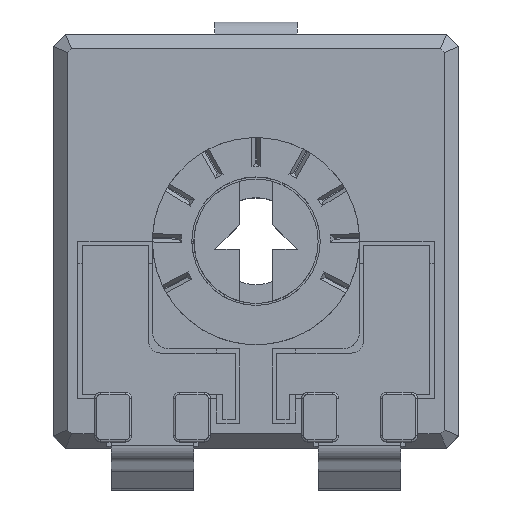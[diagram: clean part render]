
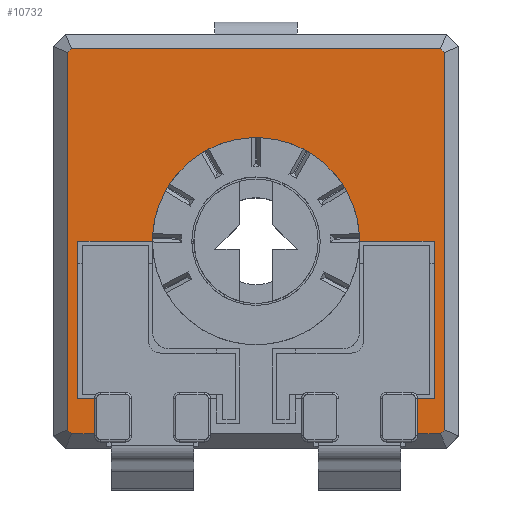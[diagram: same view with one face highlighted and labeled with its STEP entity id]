
A CAD part, top view. The second image highlights one B-rep face of the part: STEP entity #10732.
In plain terms, the highlighted planar face has unit normal (0, 0, 1).
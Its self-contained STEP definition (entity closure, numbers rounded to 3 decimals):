
#220=PLANE('',#11467);
#729=FACE_OUTER_BOUND('',#1281,.T.);
#1281=EDGE_LOOP('',(#8140,#8141,#8142,#8143,#8144,#8145,#8146,#8147,#8148,
#8149,#8150,#8151,#8152,#8153,#8154,#8155,#8156,#8157));
#2023=LINE('',#15889,#3290);
#2076=LINE('',#16105,#3343);
#2131=LINE('',#16225,#3398);
#2153=LINE('',#16269,#3420);
#2154=LINE('',#16271,#3421);
#2155=LINE('',#16273,#3422);
#2156=LINE('',#16275,#3423);
#2157=LINE('',#16277,#3424);
#2158=LINE('',#16279,#3425);
#2159=LINE('',#16281,#3426);
#2160=LINE('',#16283,#3427);
#2161=LINE('',#16284,#3428);
#2162=LINE('',#16286,#3429);
#2163=LINE('',#16288,#3430);
#2164=LINE('',#16290,#3431);
#2165=LINE('',#16294,#3432);
#2166=LINE('',#16295,#3433);
#3290=VECTOR('',#12787,10.);
#3343=VECTOR('',#13034,10.);
#3398=VECTOR('',#13149,10.);
#3420=VECTOR('',#13185,10.);
#3421=VECTOR('',#13186,10.);
#3422=VECTOR('',#13187,10.);
#3423=VECTOR('',#13188,10.);
#3424=VECTOR('',#13189,10.);
#3425=VECTOR('',#13190,10.);
#3426=VECTOR('',#13191,10.);
#3427=VECTOR('',#13192,10.);
#3428=VECTOR('',#13193,10.);
#3429=VECTOR('',#13194,10.);
#3430=VECTOR('',#13195,10.);
#3431=VECTOR('',#13196,10.);
#3432=VECTOR('',#13199,10.);
#3433=VECTOR('',#13200,10.);
#4338=CIRCLE('',#11468,2.5);
#4809=VERTEX_POINT('',#15886);
#4810=VERTEX_POINT('',#15888);
#4875=VERTEX_POINT('',#16102);
#4876=VERTEX_POINT('',#16104);
#4911=VERTEX_POINT('',#16224);
#4926=VERTEX_POINT('',#16268);
#4927=VERTEX_POINT('',#16270);
#4928=VERTEX_POINT('',#16272);
#4929=VERTEX_POINT('',#16274);
#4930=VERTEX_POINT('',#16276);
#4931=VERTEX_POINT('',#16278);
#4932=VERTEX_POINT('',#16280);
#4933=VERTEX_POINT('',#16282);
#4934=VERTEX_POINT('',#16285);
#4935=VERTEX_POINT('',#16287);
#4936=VERTEX_POINT('',#16289);
#4937=VERTEX_POINT('',#16291);
#4938=VERTEX_POINT('',#16293);
#5938=EDGE_CURVE('',#4810,#4809,#2023,.T.);
#6046=EDGE_CURVE('',#4876,#4875,#2076,.T.);
#6108=EDGE_CURVE('',#4911,#4810,#2131,.T.);
#6131=EDGE_CURVE('',#4926,#4809,#2153,.T.);
#6132=EDGE_CURVE('',#4927,#4926,#2154,.T.);
#6133=EDGE_CURVE('',#4928,#4927,#2155,.T.);
#6134=EDGE_CURVE('',#4929,#4928,#2156,.T.);
#6135=EDGE_CURVE('',#4930,#4929,#2157,.T.);
#6136=EDGE_CURVE('',#4931,#4930,#2158,.T.);
#6137=EDGE_CURVE('',#4932,#4931,#2159,.T.);
#6138=EDGE_CURVE('',#4933,#4932,#2160,.T.);
#6139=EDGE_CURVE('',#4876,#4933,#2161,.T.);
#6140=EDGE_CURVE('',#4875,#4934,#2162,.T.);
#6141=EDGE_CURVE('',#4934,#4935,#2163,.T.);
#6142=EDGE_CURVE('',#4935,#4936,#2164,.T.);
#6143=EDGE_CURVE('',#4936,#4937,#4338,.T.);
#6144=EDGE_CURVE('',#4937,#4938,#2165,.T.);
#6145=EDGE_CURVE('',#4938,#4911,#2166,.T.);
#8140=ORIENTED_EDGE('',*,*,#5938,.T.);
#8141=ORIENTED_EDGE('',*,*,#6131,.F.);
#8142=ORIENTED_EDGE('',*,*,#6132,.F.);
#8143=ORIENTED_EDGE('',*,*,#6133,.F.);
#8144=ORIENTED_EDGE('',*,*,#6134,.F.);
#8145=ORIENTED_EDGE('',*,*,#6135,.F.);
#8146=ORIENTED_EDGE('',*,*,#6136,.F.);
#8147=ORIENTED_EDGE('',*,*,#6137,.F.);
#8148=ORIENTED_EDGE('',*,*,#6138,.F.);
#8149=ORIENTED_EDGE('',*,*,#6139,.F.);
#8150=ORIENTED_EDGE('',*,*,#6046,.T.);
#8151=ORIENTED_EDGE('',*,*,#6140,.T.);
#8152=ORIENTED_EDGE('',*,*,#6141,.T.);
#8153=ORIENTED_EDGE('',*,*,#6142,.T.);
#8154=ORIENTED_EDGE('',*,*,#6143,.T.);
#8155=ORIENTED_EDGE('',*,*,#6144,.T.);
#8156=ORIENTED_EDGE('',*,*,#6145,.T.);
#8157=ORIENTED_EDGE('',*,*,#6108,.T.);
#10732=ADVANCED_FACE('',(#729),#220,.T.);
#11467=AXIS2_PLACEMENT_3D('',#16267,#13183,#13184);
#11468=AXIS2_PLACEMENT_3D('',#16292,#13197,#13198);
#12787=DIRECTION('',(0.,-1.,0.));
#13034=DIRECTION('',(0.,1.,0.));
#13149=DIRECTION('',(-1.,0.,0.));
#13183=DIRECTION('center_axis',(0.,0.,1.));
#13184=DIRECTION('ref_axis',(1.,0.,0.));
#13185=DIRECTION('',(-1.,0.,0.));
#13186=DIRECTION('',(-0.707,-0.707,0.));
#13187=DIRECTION('',(0.,-1.,0.));
#13188=DIRECTION('',(0.707,-0.707,0.));
#13189=DIRECTION('',(1.,0.,0.));
#13190=DIRECTION('',(0.707,0.707,0.));
#13191=DIRECTION('',(0.,1.,0.));
#13192=DIRECTION('',(-0.707,0.707,0.));
#13193=DIRECTION('',(-1.,0.,0.));
#13194=DIRECTION('',(-1.,0.,0.));
#13195=DIRECTION('',(0.,1.,0.));
#13196=DIRECTION('',(1.,0.,0.));
#13197=DIRECTION('center_axis',(0.,0.,-1.));
#13198=DIRECTION('ref_axis',(-1.,0.,0.));
#13199=DIRECTION('',(1.,0.,0.));
#13200=DIRECTION('',(0.,-1.,0.));
#15886=CARTESIAN_POINT('',(-22.548,-17.64,0.));
#15888=CARTESIAN_POINT('',(-22.548,-16.79,0.));
#15889=CARTESIAN_POINT('',(-22.548,-15.415,0.));
#16102=CARTESIAN_POINT('',(-30.348,-16.79,0.));
#16104=CARTESIAN_POINT('',(-30.348,-17.64,0.));
#16105=CARTESIAN_POINT('',(-30.348,-14.815,0.));
#16224=CARTESIAN_POINT('',(-22.148,-16.79,0.));
#16225=CARTESIAN_POINT('',(-24.648,-16.79,0.));
#16267=CARTESIAN_POINT('Origin',(-26.448,-12.99,0.));
#16268=CARTESIAN_POINT('',(-21.993,-17.64,0.));
#16269=CARTESIAN_POINT('',(-28.748,-17.64,0.));
#16270=CARTESIAN_POINT('',(-21.898,-17.545,0.));
#16271=CARTESIAN_POINT('',(-21.995,-17.643,0.));
#16272=CARTESIAN_POINT('',(-21.898,-8.435,0.));
#16273=CARTESIAN_POINT('',(-21.898,-15.34,0.));
#16274=CARTESIAN_POINT('',(-21.993,-8.34,0.));
#16275=CARTESIAN_POINT('',(-21.845,-8.488,0.));
#16276=CARTESIAN_POINT('',(-30.903,-8.34,0.));
#16277=CARTESIAN_POINT('',(-24.148,-8.34,0.));
#16278=CARTESIAN_POINT('',(-30.998,-8.435,0.));
#16279=CARTESIAN_POINT('',(-30.9,-8.338,0.));
#16280=CARTESIAN_POINT('',(-30.998,-17.545,0.));
#16281=CARTESIAN_POINT('',(-30.998,-10.64,0.));
#16282=CARTESIAN_POINT('',(-30.903,-17.64,0.));
#16283=CARTESIAN_POINT('',(-31.05,-17.493,0.));
#16284=CARTESIAN_POINT('',(-28.748,-17.64,0.));
#16285=CARTESIAN_POINT('',(-30.748,-16.79,0.));
#16286=CARTESIAN_POINT('',(-28.598,-16.79,0.));
#16287=CARTESIAN_POINT('',(-30.748,-12.99,0.));
#16288=CARTESIAN_POINT('',(-30.748,-12.99,0.));
#16289=CARTESIAN_POINT('',(-28.948,-12.99,0.));
#16290=CARTESIAN_POINT('',(-27.698,-12.99,0.));
#16291=CARTESIAN_POINT('',(-23.948,-12.99,0.));
#16292=CARTESIAN_POINT('Origin',(-26.448,-12.99,0.));
#16293=CARTESIAN_POINT('',(-22.148,-12.99,0.));
#16294=CARTESIAN_POINT('',(-24.298,-12.99,0.));
#16295=CARTESIAN_POINT('',(-22.148,-14.89,0.));
